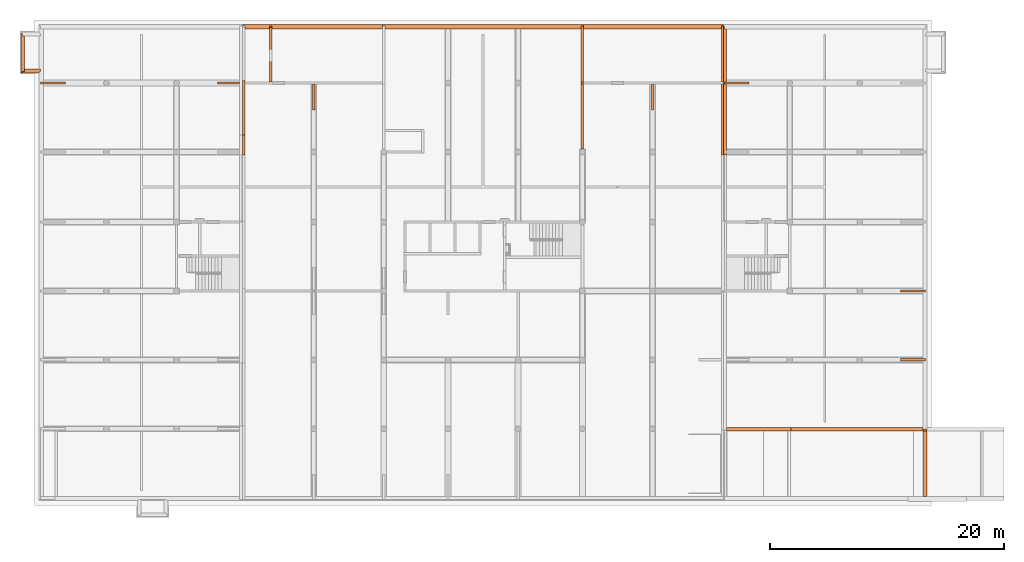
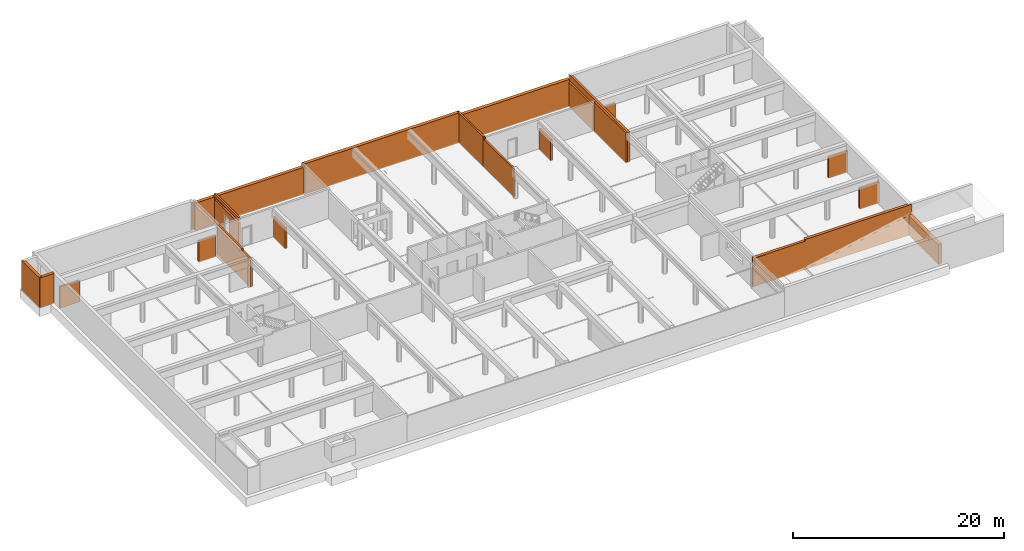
# One storey, part 24 of 25: 21 proxies, 1 opening.
"""IFC2X3 building model written with IfcOpenShell, lengths in millimetres."""

from ifc_helpers import new_model, entity, si_unit, converted_unit, derived_unit, money_unit, direction, frame, origin_with_axes, origin_2d_with_axis, place, context, subcontext, project, spatial, rectangle, extrude, faceted_brep, material, material_list, type_object, element, save


model = new_model("IFC2X3")

# Units and contexts
model_context = context("Model", 3, precision=0.01, world=origin_with_axes(), true_north=direction((0.34421633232, 0.938890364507)))
body_context = subcontext(model_context, "Body", "Model", "MODEL_VIEW")
ifc_project = project(units=[si_unit("LENGTHUNIT", "METRE", prefix="MILLI"), si_unit("AREAUNIT", "SQUARE_METRE"), si_unit("VOLUMEUNIT", "CUBIC_METRE"), converted_unit("PLANEANGLEUNIT", "DEGREE", entity("IfcPlaneAngleMeasure", 0.0174532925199), si_unit("PLANEANGLEUNIT", "RADIAN"), dimensions=[0, 0, 0, 0, 0, 0, 0]), si_unit("SOLIDANGLEUNIT", "STERADIAN"), money_unit("USD"), converted_unit("TIMEUNIT", "Year", entity("IfcTimeMeasure", 31556926.0), si_unit("TIMEUNIT", "SECOND"), dimensions=[0, 0, 1, 0, 0, 0, 0]), si_unit("MASSUNIT", "GRAM", prefix="KILO"), si_unit("THERMODYNAMICTEMPERATUREUNIT", "DEGREE_CELSIUS"), si_unit("LUMINOUSINTENSITYUNIT", "LUMEN"), si_unit("ENERGYUNIT", "JOULE", prefix="MEGA"), derived_unit("THERMALCONDUCTANCEUNIT", [(si_unit("POWERUNIT", "WATT"), 1), (si_unit("LENGTHUNIT", "METRE"), -1), (si_unit("THERMODYNAMICTEMPERATUREUNIT", "KELVIN"), -1)]), derived_unit("SPECIFICHEATCAPACITYUNIT", [(si_unit("ENERGYUNIT", "JOULE"), 1), (si_unit("MASSUNIT", "GRAM", prefix="KILO"), -1), (si_unit("THERMODYNAMICTEMPERATUREUNIT", "KELVIN"), -1)]), derived_unit("MASSDENSITYUNIT", [(si_unit("MASSUNIT", "GRAM", prefix="KILO"), 1), (si_unit("VOLUMEUNIT", "CUBIC_METRE"), -1)])], contexts=[model_context])

# Site, building, storey
site_placement = place(None, origin_with_axes())
site = spatial("IfcSite", under=ifc_project, at=site_placement, Name="USTRONIE MORSKIE", CompositionType="ELEMENT")
building_placement = place(site_placement, origin_with_axes())
building = spatial("IfcBuilding", under=site, at=building_placement, Name="Budynek", CompositionType="ELEMENT")
storey_placement = place(building_placement, frame((0.0, 0.0, -3600.0), z_axis=(0.0, 0.0, 1.0), x_axis=(1.0, 0.0, 0.0)))
storey = spatial("IfcBuildingStorey", under=building, at=storey_placement, Name="GARAZ", CompositionType="ELEMENT", Elevation=-3600.0)

# Proxies
ifc_material_1 = material(Name="Membrana przeciwwilgociowa")
ifc_material_2 = material(Name="Płyty styropianowe twarde HIGH-PRIORITY")
ifc_material_3 = material(Name="Beton konstrukcyjny 01")
ifc_material_list_1 = material_list([ifc_material_1, ifc_material_2, ifc_material_3])
building_element_proxy_type_1 = type_object("IfcBuildingElementProxyType", Name="20+10 GARAŻ 310", PredefinedType="NOTDEFINED")
proxy_1_placement = place(storey_placement, frame((350067.920919, 745791.199036, -800.0), z_axis=(0.0, 0.0, 1.0), x_axis=(-1.0, 0.0, 0.0)))
element("IfcBuildingElementProxy", 1, at=proxy_1_placement, inside=storey, type_object=building_element_proxy_type_1, material=ifc_material_list_1, Name="Œciana-006", context=body_context, shape_type="Brep", body=[
    faceted_brep([(260.0, 210.0, 800.0), (260.0, 200.0, 800.0), (260.0, 200.0, 4170.0), (260.0, 210.0, 4170.0), (1800.0, 200.0, 800.0), (1800.0, 210.0, 800.0), (1800.0, 200.0, 4170.0), (1800.0, 210.0, 4170.0)], [[[0, 1, 2, 3]], [[4, 1, 0, 5]], [[1, 4, 6, 2]], [[6, 7, 3, 2]], [[5, 0, 3, 7]], [[4, 5, 7, 6]]]),
    faceted_brep([(250.0, 200.0, 700.0), (250.0, 100.0, 700.0), (250.0, 100.0, 4170.0), (250.0, 200.0, 4170.0), (1700.0, 100.0, 700.0), (1700.0, 200.0, 700.0), (1700.0, 100.0, 4170.0), (1700.0, 200.0, 4170.0)], [[[0, 1, 2, 3]], [[4, 1, 0, 5]], [[1, 4, 6, 2]], [[6, 7, 3, 2]], [[5, 0, 3, 7]], [[4, 5, 7, 6]]]),
    faceted_brep([(150.0, 100.0, 700.0), (150.0, -100.0, 700.0), (150.0, -100.0, 4170.0), (150.0, 100.0, 4170.0), (1500.0, -100.0, 700.0), (1500.0, 100.0, 700.0), (1500.0, -100.0, 4170.0), (1500.0, 100.0, 4170.0)], [[[0, 1, 2, 3]], [[4, 1, 0, 5]], [[1, 4, 6, 2]], [[6, 7, 3, 2]], [[5, 0, 3, 7]], [[4, 5, 7, 6]]]),
])
ifc_material_list_2 = material_list([ifc_material_3, ifc_material_2, ifc_material_1])
proxy_2_placement = place(storey_placement, frame((348467.920919, 748851.199036, -800.0), z_axis=(0.0, 0.0, 1.0), x_axis=(0.0, -1.0, 0.0)))
element("IfcBuildingElementProxy", 2, at=proxy_2_placement, inside=storey, type_object=building_element_proxy_type_1, material=ifc_material_list_2, Name="Œciana-006", context=body_context, shape_type="Brep", body=[
    faceted_brep([(3160.0, 100.0, 700.0), (100.0, 100.0, 700.0), (100.0, 100.0, 4170.0), (3160.0, 100.0, 4170.0), (100.0, -100.0, 700.0), (3160.0, -100.0, 700.0), (100.0, -100.0, 4170.0), (3160.0, -100.0, 4170.0)], [[[0, 1, 2, 3]], [[4, 1, 0, 5]], [[1, 4, 6, 2]], [[7, 3, 2, 6]], [[5, 0, 3, 7]], [[4, 5, 7, 6]]]),
    faceted_brep([(3260.0, -100.0, 700.0), (-100.0, -100.0, 700.0), (-100.0, -100.0, 4170.0), (3260.0, -100.0, 4170.0), (-100.0, -200.0, 700.0), (3260.0, -200.0, 700.0), (-100.0, -200.0, 4170.0), (3260.0, -200.0, 4170.0)], [[[0, 1, 2, 3]], [[4, 1, 0, 5]], [[1, 4, 6, 2]], [[7, 3, 2, 6]], [[5, 0, 3, 7]], [[4, 5, 7, 6]]]),
    faceted_brep([(3270.0, -200.0, 800.0), (-200.0, -200.0, 800.0), (-200.0, -200.0, 4170.0), (3270.0, -200.0, 4170.0), (-200.0, -210.0, 800.0), (3270.0, -210.0, 800.0), (-200.0, -210.0, 4170.0), (3270.0, -210.0, 4170.0)], [[[0, 1, 2, 3]], [[4, 1, 0, 5]], [[1, 4, 6, 2]], [[7, 3, 2, 6]], [[5, 0, 3, 7]], [[4, 5, 7, 6]]]),
])
proxy_3_placement = place(storey_placement, frame((425567.920919, 715101.199036, -880.0), z_axis=(0.0, 0.0, 1.0), x_axis=(-1.0, 0.0, 0.0)))
element("IfcBuildingElementProxy", 3, at=proxy_3_placement, inside=storey, type_object=building_element_proxy_type_1, material=ifc_material_list_1, Name="Œciana-006", context=body_context, shape_type="Brep", body=[
    faceted_brep([(848.301108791, 199.999999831, 2944.39860763), (100.000005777, 199.999999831, 3056.64377308), (100.000005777, 200.0, 880.0), (11170.2941469, 199.999999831, 880.0), (100.000005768, 210.0, 3056.64377308), (848.301108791, 210.0, 2944.39860763), (100.000005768, 210.0, 880.0), (11170.2941469, 209.999998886, 880.0)], [[[0, 1, 2, 3]], [[4, 1, 0, 5]], [[1, 4, 6, 2]], [[6, 7, 3, 2]], [[5, 0, 3, 7]], [[4, 5, 7, 6]]]),
    faceted_brep([(-249.999987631, 210.000004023, 3412.49999814), (-249.999987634, 200.0, 3412.49999815), (-250.0, 200.0, 4250.0), (-250.0, 210.000004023, 4250.0), (900.0, 200.0, 3240.0), (900.0, 210.0, 3240.0), (11666.6666667, 200.0, 1086.66666667), (13733.3333333, 200.0, 880.0), (17150.0, 200.0, 880.0), (17150.0, 200.0, 3230.0), (17150.0, 200.0, 4250.0), (17100.0, 200.0, 4250.0), (17100.0, 200.0, 3230.0), (16900.0, 200.0, 3230.0), (16850.0, 200.0, 3230.0), (16850.0, 200.0, 4000.0), (11400.0, 200.0, 4000.0), (11400.0, 200.0, 4250.0), (11400.0, 210.0, 4250.0), (11400.0, 210.000004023, 4000.0), (16850.0, 210.0, 4000.0), (16850.0, 210.0, 3230.0), (17100.0, 210.0, 3230.0), (17100.0, 210.0, 4250.0), (17150.0, 210.0, 4250.0), (17150.0, 210.0, 3230.0), (17150.0, 209.999998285, 880.0), (13733.3333333, 209.999998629, 880.0), (11666.6666667, 210.0, 1086.66666667)], [[[0, 1, 2, 3]], [[4, 1, 0, 5]], [[1, 4, 6, 7, 8, 9, 10, 11, 12, 13, 14, 15, 16, 17, 2]], [[18, 3, 2, 17]], [[5, 0, 3, 18, 19, 20, 21, 22, 23, 24, 25, 26, 27, 28]], [[4, 5, 28, 6]], [[7, 6, 28, 27]], [[26, 8, 7, 27]], [[8, 26, 25, 9]], [[9, 25, 24, 10]], [[24, 23, 11, 10]], [[22, 12, 11, 23]], [[13, 12, 22, 21, 14]], [[20, 15, 14, 21]], [[16, 15, 20, 19]], [[16, 19, 18, 17]]]),
    faceted_brep([(17100.0, 100.0, 4250.0), (17100.0, 100.0, 3230.0), (16900.0, 100.0, 3230.0), (16899.9915408, 100.000000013, 4050.0), (11600.0, 100.0, 4050.0), (11400.0, 100.0, 4050.0), (11400.0, 100.0, 4250.0), (-150.0, 100.0, 4250.0), (-149.999997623, 100.0, 3120.0), (100.000005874, 100.0, 3120.0), (100.000005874, 100.0, 780.0), (17000.0, 100.0, 780.0), (17150.0, 100.0, 780.0), (17150.0, 100.0, 3230.0), (17150.0, 100.0, 4250.0), (17100.0, 200.0, 4250.0), (17100.0, 200.0, 3230.0), (16900.0, 200.0, 3230.0), (16899.9916892, 200.000000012, 4050.0), (11600.0, 200.0, 4050.0), (11400.0, 200.0, 4050.0), (11400.0, 200.0, 4250.0), (-150.0, 200.0, 4250.0), (-149.999997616, 200.0, 3120.0), (100.000005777, 200.0, 3120.0), (100.000005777, 200.0, 780.0), (17000.0, 200.0, 780.0), (17150.0, 200.0, 780.0), (17150.0, 200.0, 3230.0), (17150.0, 200.0, 4250.0)], [[[0, 1, 2, 3, 4, 5, 6, 7, 8, 9, 10, 11, 12, 13, 14]], [[1, 0, 15, 16]], [[2, 1, 16, 17]], [[3, 2, 17, 18]], [[4, 3, 18, 19]], [[19, 20, 5, 4]], [[21, 6, 5, 20]], [[22, 7, 6, 21]], [[8, 7, 22, 23]], [[8, 23, 24, 9]], [[10, 9, 24, 25]], [[10, 25, 26, 11]], [[26, 27, 12, 11]], [[27, 28, 13, 12]], [[28, 29, 14, 13]], [[15, 0, 14, 29]], [[22, 21, 20, 19, 18, 17, 16, 15, 29, 28, 27, 26, 25, 24, 23]]]),
    faceted_brep([(16899.991244, -99.9999999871, 4050.0), (11400.0, -100.0, 4050.0), (11400.0, -100.0, 4250.0), (100.0, -100.0, 4250.0), (100.000011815, -100.0, 3120.0), (100.000007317, -100.0, 780.0), (16900.0, -100.0, 780.0), (16899.9915408, 100.000000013, 4050.0), (11400.0, 100.0, 4050.0), (11400.0, 100.0, 4250.0), (100.0, 100.0, 4250.0), (100.000011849, 0.0, 3120.0), (100.000004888, 100.0, 780.0), (100.000007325, 0.0, 780.0), (16900.0, 100.0, 780.0)], [[[0, 1, 2, 3, 4, 5, 6]], [[1, 0, 7, 8]], [[9, 2, 1, 8]], [[2, 9, 10, 3]], [[11, 4, 3, 10, 12, 13]], [[4, 11, 13, 5]], [[6, 5, 13, 12, 14]], [[7, 0, 6, 14]], [[8, 7, 14, 12, 10, 9]]]),
])
building_element_proxy_type_2 = type_object("IfcBuildingElementProxyType", Name="Beton konstrukcyjny 01 200", PredefinedType="NOTDEFINED")
proxy_4_placement = place(storey_placement, frame((396318.678798, 738801.199036, -100.0), z_axis=(0.0, 0.0, 1.0), x_axis=(-0.000128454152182, 0.99999999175, 0.0)))
element("IfcBuildingElementProxy", 4, at=proxy_4_placement, inside=storey, type_object=building_element_proxy_type_2, material=ifc_material_3, Name="SW-01", context=body_context, shape_type="Brep", body=[
    faceted_brep([(249.999997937, -0.0321135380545, 2470.00030619), (246.196359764, -43.4436697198, 2470.00030619), (234.912169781, -85.5352119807, 2470.00030619), (228.164866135, -100.0, 2470.00030619), (249.987156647, -100.0, 2470.00030619), (246.196359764, -43.4436697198, 0.0), (249.999997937, -0.0321135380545, 0.0), (234.912169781, -85.5352119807, 0.0), (228.164866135, -100.0, 0.0), (6000.0000495, -100.0, 0.0), (6000.0000495, -100.0, 3470.0), (5800.01478713, -100.0, 3470.0), (5800.01478713, -100.0, 3270.0), (249.987156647, -100.0, 3270.0), (250.012847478, 100.0, 2470.00030619), (250.012847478, 100.0, 3270.0), (246.207512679, 43.3804183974, 2470.00030619), (246.207512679, 43.3804183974, 0.0), (234.934136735, 85.4748582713, 0.0), (228.163223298, 100.0, 0.0), (6000.0000495, 100.0, 0.0), (6000.0000495, 100.0, 3470.0), (5800.0409455, 100.0, 3470.0), (5800.0409455, 100.0, 3270.0), (234.934136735, 85.4748582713, 2470.00030619), (228.163223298, 100.0, 2470.00030619)], [[[0, 1, 2, 3, 4]], [[5, 1, 0, 6]], [[7, 2, 1, 5]], [[7, 8, 3, 2]], [[4, 3, 8, 9, 10, 11, 12, 13]], [[14, 0, 4, 13, 15]], [[6, 0, 16, 17]], [[17, 18, 19, 20, 9, 8, 7, 5, 6]], [[20, 21, 10, 9]], [[11, 10, 21, 22]], [[11, 22, 23, 12]], [[12, 23, 15, 13]], [[24, 16, 0, 14, 25]], [[20, 19, 25, 14, 15, 23, 22, 21]], [[17, 16, 24, 18]], [[18, 24, 25, 19]]]),
])
proxy_5_placement = place(storey_placement, frame((408317.920919, 749451.199036, -100.0), z_axis=(0.0, 0.0, 1.0), x_axis=(0.0, -1.0, 0.0)))
element("IfcBuildingElementProxy", 5, at=proxy_5_placement, inside=storey, type_object=building_element_proxy_type_2, material=ifc_material_3, Name="SW-01", context=body_context, shape_type="Brep", body=[
    faceted_brep([(-150.0, 100.0, 0.0), (4650.0, 100.0, 0.0), (4650.0, -100.0, 0.0), (-150.0, -100.0, 0.0), (-150.0, 100.0, 2820.0), (4650.0, 100.0, 2820.0), (4650.0, -100.0, 2820.0), (-150.0, -100.0, 2820.0)], [[[0, 1, 2, 3]], [[4, 5, 1, 0]], [[6, 2, 1, 5]], [[3, 2, 6, 7]], [[7, 4, 0, 3]], [[7, 6, 5, 4]]]),
])
proxy_6_placement = place(storey_placement, frame((396317.908074, 744801.199036, -100.0), z_axis=(0.0, 0.0, 1.0), x_axis=(-0.00012845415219, 0.99999999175, 0.0)))
element("IfcBuildingElementProxy", 6, at=proxy_6_placement, inside=storey, type_object=building_element_proxy_type_2, material=ifc_material_3, Name="SW-01", context=body_context, shape_type="Brep", body=[
    faceted_brep([(4550.01288295, 100.0, 3470.0), (4550.01280623, 99.4026873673, 3470.0), (2224.96011739, 99.9999999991, 3470.0), (0.0, 100.0, 3470.0), (0.0, -100.0, 3470.0), (4799.98719419, -100.0, 3470.0), (4800.01288502, 100.0, 3470.0), (4550.01280623, 99.4026873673, 3270.0), (4550.01288295, 100.0, 3270.0), (2224.96011383, 100.0, 3270.0), (4800.01288502, 100.0, 0.0), (0.0, 100.0, 0.0), (0.0, -100.0, 0.0), (4799.98719419, -100.0, 0.0)], [[[0, 1, 2, 3, 4, 5, 6]], [[7, 1, 0, 8]], [[9, 2, 1, 7]], [[9, 8, 0, 6, 10, 11, 3, 2]], [[4, 3, 11, 12]], [[12, 13, 5, 4]], [[5, 13, 10, 6]], [[7, 8, 9]], [[11, 10, 13, 12]]]),
])
proxy_7_placement = place(storey_placement, frame((425567.920919, 721001.199036, -100.0), z_axis=(0.0, 0.0, 1.0), x_axis=(-1.0, 0.0, 0.0)))
element("IfcBuildingElementProxy", 7, at=proxy_7_placement, inside=storey, type_object=building_element_proxy_type_2, material=ifc_material_3, Name="SW-01", context=body_context, shape_type="Brep", body=[
    faceted_brep([(-150.0, 100.0, 2470.00000745), (-150.0, -100.0, 2470.00000745), (2000.0, -100.0, 2470.00000745), (2000.0, 100.0, 2470.00000745), (-150.0, 100.0, 0.0), (-150.0, -100.0, 0.0), (2000.0, -100.0, 0.0), (2000.0, 100.0, 0.0)], [[[0, 1, 2, 3]], [[4, 5, 1, 0]], [[1, 5, 6, 2]], [[7, 3, 2, 6]], [[4, 0, 3, 7]], [[5, 4, 7, 6]]]),
])
proxy_8_placement = place(storey_placement, frame((367317.920919, 744701.199036, -100.0), z_axis=(0.0, 0.0, 1.0), x_axis=(0.0, -1.0, 0.0)))
element("IfcBuildingElementProxy", 8, at=proxy_8_placement, inside=storey, type_object=building_element_proxy_type_2, material=ifc_material_3, Name="SW-01", context=body_context, shape_type="Brep", body=[
    faceted_brep([(-200.0, 100.0, 3470.0), (-200.0, -100.0, 3470.0), (4439.98408229, -100.0, 3470.0), (4439.98408229, 100.0, 3470.0), (-200.0, -100.0, 0.0), (-200.0, 100.0, 0.0), (6150.0, -100.0, 0.0), (6150.0, -100.0, 3270.0), (4439.98408229, -100.0, 3270.0), (4439.98408229, 100.0, 3270.0), (6150.0, 100.0, 3270.0), (6150.0, 100.0, 0.0)], [[[0, 1, 2, 3]], [[4, 1, 0, 5]], [[6, 7, 8, 2, 1, 4]], [[2, 8, 9, 3]], [[0, 3, 9, 10, 11, 5]], [[5, 11, 6, 4]], [[6, 11, 10, 7]], [[8, 7, 10, 9]]]),
])
proxy_9_placement = place(storey_placement, frame((425567.920919, 726901.199036, -100.0), z_axis=(0.0, 0.0, 1.0), x_axis=(-1.0, 0.0, 0.0)))
element("IfcBuildingElementProxy", 9, at=proxy_9_placement, inside=storey, type_object=building_element_proxy_type_2, material=ifc_material_3, Name="SW-01", context=body_context, shape_type="Brep", body=[
    faceted_brep([(-150.0, 100.0, 2470.00000745), (-150.0, -100.0, 2470.00000745), (2000.0, -100.0, 2470.00000745), (2000.0, 100.0, 2470.00000745), (-150.0, 100.0, 0.0), (-150.0, -100.0, 0.0), (2000.0, -100.0, 0.0), (2000.0, 100.0, 0.0)], [[[0, 1, 2, 3]], [[4, 5, 1, 0]], [[1, 5, 6, 2]], [[7, 3, 2, 6]], [[4, 0, 3, 7]], [[5, 4, 7, 6]]]),
])
proxy_10_placement = place(storey_placement, frame((350067.920919, 744701.199036, -100.0), z_axis=(0.0, 0.0, 1.0), x_axis=(1.0, 0.0, 0.0)))
element("IfcBuildingElementProxy", 10, at=proxy_10_placement, inside=storey, type_object=building_element_proxy_type_2, material=ifc_material_3, Name="SW-01", context=body_context, shape_type="Brep", body=[
    faceted_brep([(-150.0, 100.0, 0.0), (2000.0, 100.0, 0.0), (2000.0, -100.0, 0.0), (-150.0, -100.0, 0.0), (-150.0, 100.0, 2470.00030619), (2000.0, 100.0, 2470.00030619), (2000.0, -100.0, 2470.00030619), (-150.0, -100.0, 2470.00030619)], [[[0, 1, 2, 3]], [[4, 5, 1, 0]], [[2, 1, 5, 6]], [[3, 2, 6, 7]], [[4, 0, 3, 7]], [[7, 6, 5, 4]]]),
])
proxy_11_placement = place(storey_placement, frame((373317.920919, 744701.199036, -100.0), z_axis=(0.0, 0.0, 1.0), x_axis=(0.0, -1.0, 0.0)))
element("IfcBuildingElementProxy", 11, at=proxy_11_placement, inside=storey, type_object=building_element_proxy_type_2, material=ifc_material_3, Name="SW-01", context=body_context, shape_type="Brep", body=[
    faceted_brep([(100.0, -100.0, 0.0), (100.0, -100.0, 2470.00030619), (100.0, 100.0, 2470.00030619), (100.0, 100.0, 0.0), (2300.99283942, -100.0, 0.0), (2300.99283942, -100.0, 2470.00030619), (2300.99283942, 100.0, 2470.00030619), (2300.99283942, 100.0, 0.0)], [[[0, 1, 2, 3]], [[4, 5, 1, 0]], [[5, 6, 2, 1]], [[3, 2, 6, 7]], [[0, 3, 7, 4]], [[7, 6, 5, 4]]]),
])
proxy_12_placement = place(storey_placement, frame((402317.920919, 744701.199036, -100.0), z_axis=(0.0, 0.0, 1.0), x_axis=(0.0, -1.0, 0.0)))
element("IfcBuildingElementProxy", 12, at=proxy_12_placement, inside=storey, type_object=building_element_proxy_type_2, material=ifc_material_3, Name="SW-01", context=body_context, shape_type="Brep", body=[
    faceted_brep([(100.0, 100.0, 2470.0), (100.0, -100.0, 2470.0), (2295.99283942, -100.0, 2470.0), (2295.99283942, 100.0, 2470.0), (100.0, 100.0, 0.0), (100.0, -100.0, 0.0), (2295.99283942, -100.0, 0.0), (2295.99283942, 100.0, 0.0)], [[[0, 1, 2, 3]], [[4, 5, 1, 0]], [[1, 5, 6, 2]], [[7, 3, 2, 6]], [[4, 0, 3, 7]], [[5, 4, 7, 6]]]),
])
proxy_13_placement = place(storey_placement, frame((408317.920919, 744701.199036, -100.0), z_axis=(0.0, 0.0, 1.0), x_axis=(0.0, -1.0, 0.0)))
element("IfcBuildingElementProxy", 13, at=proxy_13_placement, inside=storey, type_object=building_element_proxy_type_2, material=ifc_material_3, Name="SW-01", context=body_context, shape_type="Brep", body=[
    faceted_brep([(6150.0, 100.0, 0.0), (100.0, 100.0, 0.0), (100.0, 100.0, 2820.0), (100.0, 100.0, 3470.0), (6150.0, 100.0, 3470.0), (6150.0, -100.0, 0.0), (100.000000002, -100.0, 0.0), (100.0, -100.0, 3470.0), (6150.0, -100.0, 3470.0)], [[[0, 1, 2, 3, 4]], [[0, 5, 6, 1]], [[1, 6, 7, 3, 2]], [[8, 4, 3, 7]], [[0, 4, 8, 5]], [[5, 8, 7, 6]]]),
])
proxy_14_placement = place(storey_placement, frame((408567.920919, 744701.199036, -100.0), z_axis=(0.0, 0.0, 1.0), x_axis=(1.0, 0.0, 0.0)))
element("IfcBuildingElementProxy", 14, at=proxy_14_placement, inside=storey, type_object=building_element_proxy_type_2, material=ifc_material_3, Name="SW-01", context=body_context, shape_type="Brep", body=[
    faceted_brep([(-100.0, 100.0, 0.0), (2000.0, 100.0, 0.0), (2000.0, -100.0, 0.0), (-100.0, -100.0, 0.0), (-100.0, 100.0, 2470.0), (2000.0, 100.0, 2470.0), (2000.0, -100.0, 2470.0), (-100.0, -100.0, 2470.0)], [[[0, 1, 2, 3]], [[4, 5, 1, 0]], [[2, 1, 5, 6]], [[3, 2, 6, 7]], [[4, 0, 3, 7]], [[7, 6, 5, 4]]]),
])
proxy_15_placement = place(storey_placement, frame((367067.920919, 744701.199036, -100.0), z_axis=(0.0, 0.0, 1.0), x_axis=(-1.0, 0.0, 0.0)))
element("IfcBuildingElementProxy", 15, at=proxy_15_placement, inside=storey, type_object=building_element_proxy_type_2, material=ifc_material_3, Name="SW-01", context=body_context, shape_type="Brep", body=[
    faceted_brep([(100.0, -100.0, 2470.00030619), (2000.0, -100.0, 2470.00030619), (2000.0, 100.0, 2470.00030619), (100.0, 100.0, 2470.00030619), (100.0, -100.0, 0.0), (2000.0, -100.0, 0.0), (2000.0, 100.0, 0.0), (100.0, 100.0, 0.0)], [[[0, 1, 2, 3]], [[4, 5, 1, 0]], [[2, 1, 5, 6]], [[3, 2, 6, 7]], [[4, 0, 3, 7]], [[7, 6, 5, 4]]]),
])

# Proxy, opening
proxy_16_placement = place(storey_placement, frame((369627.920919, 744701.199036, -100.0), z_axis=(0.0, 0.0, 1.0), x_axis=(0.0, 1.0, 0.0)))
proxy_16 = element("IfcBuildingElementProxy", 16, at=proxy_16_placement, inside=storey, type_object=building_element_proxy_type_2, material=ifc_material_3, Name="SW-01", context=body_context, shape_type="Brep", body=[
    faceted_brep([(4650.0, -100.0, 3120.0), (4650.0, -100.0, 2820.0), (99.9999909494, -100.0, 2820.0), (100.0, -100.0, 0.0), (4900.00000354, -100.0, 0.0), (4900.0, -100.0, 3120.0), (4750.0, -100.0, 3120.0), (4750.0, -100.0, 3470.0), (100.0, -100.0, 3470.0), (99.9999909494, -100.0, 3120.0), (4650.0, 100.0, 2820.0), (4650.0, 100.0, 3120.0), (99.9999909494, 100.0, 2820.0), (100.0, 100.0, 0.0), (4900.00000361, 100.0, 0.0), (4900.0, 100.0, 3120.0), (4750.0, 100.0, 3120.0), (4750.0, 100.0, 3470.0), (100.0, 100.0, 3470.0), (99.9999909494, 100.0, 3120.0)], [[[0, 1, 2, 3, 4, 5, 6, 7, 8, 9]], [[10, 1, 0, 11]], [[12, 2, 1, 10]], [[3, 2, 12, 13]], [[3, 13, 14, 4]], [[4, 14, 15, 5]], [[16, 6, 5, 15]], [[7, 6, 16, 17]], [[17, 18, 8, 7]], [[18, 19, 9, 8]], [[11, 0, 9, 19]], [[10, 11, 19, 18, 17, 16, 15, 14, 13, 12]]]),
])
opening_placement = place(proxy_16_placement, frame((2375.0, 0.0, 100.0), z_axis=(0.0, 0.0, 1.0), x_axis=(1.0, 0.0, 0.0)))
element("IfcOpeningElement", 17, at=opening_placement, cuts=proxy_16, Name="Dw02", context=body_context, shape_type="SweptSolid", body=[
    extrude(rectangle(XDim=1020.0, YDim=2120.0, at=origin_2d_with_axis()), frame((0.0, 200.0, 1060.0), z_axis=(0.0, -1.0, 0.0), x_axis=(1.0, 0.0, 0.0)), (0.0, 0.0, 1.0), 600.0),
    extrude(rectangle(XDim=1094.0, YDim=2227.0, at=origin_2d_with_axis()), frame((0.0, 100.0, 1113.5), z_axis=(0.0, -1.0, 0.0), x_axis=(1.0, 0.0, 0.0)), (0.0, 0.0, -1.0), 200.0),
    extrude(rectangle(XDim=1094.0, YDim=2227.0, at=origin_2d_with_axis()), frame((0.0, -100.0, 1113.5), z_axis=(0.0, 1.0, 0.0), x_axis=(1.0, 0.0, 0.0)), (0.0, 0.0, -1.0), 200.0),
])

# Proxies
building_element_proxy_type_3 = type_object("IfcBuildingElementProxyType", Name="25+10 GARAŻ 360", PredefinedType="NOTDEFINED")
proxy_17_placement = place(storey_placement, frame((396417.310763, 749451.199036, -800.0), z_axis=(0.0, 0.0, 1.0), x_axis=(1.0, 0.0, 0.0)))
element("IfcBuildingElementProxy", 18, at=proxy_17_placement, inside=storey, type_object=building_element_proxy_type_3, material=ifc_material_list_1, Name="SZ-02", context=body_context, shape_type="Brep", body=[
    faceted_brep([(12000.6101564, 250.000000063, 800.0), (12000.6101564, 259.999998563, 800.0), (12000.6101564, 260.0, 3520.0), (12000.6101564, 250.000001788, 3520.0), (0.0, 260.0, 800.0), (0.0, 250.0, 800.0), (0.0, 260.0, 3819.9999994), (11900.6101564, 260.0, 3820.0), (11900.6101564, 260.0, 3520.0), (11900.6101564, 250.000001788, 3520.0), (11900.6101564, 250.000001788, 3820.0), (0.0, 250.0, 3819.9999994)], [[[0, 1, 2, 3]], [[4, 1, 0, 5]], [[1, 4, 6, 7, 8, 2]], [[9, 3, 2, 8]], [[5, 0, 3, 9, 10, 11]], [[4, 5, 11, 6]], [[11, 10, 7, 6]], [[9, 8, 7, 10]]]),
    faceted_brep([(11900.6101564, 150.00000447, 700.0), (11900.6101564, 250.0, 700.0), (12000.6101564, 250.0, 700.0), (12000.6101564, 150.00000447, 700.0), (0.0, 250.0, 700.0), (0.0, 150.0, 700.0), (0.0, 250.0, 3819.9999994), (11900.6101564, 250.000001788, 3820.0), (11900.6101564, 250.000001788, 3520.0), (12000.6101564, 250.000001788, 3520.0), (12000.6101564, 149.999998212, 3520.0), (11900.6101564, 149.999998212, 3520.0), (11900.6101564, 149.999998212, 3820.0), (0.0, 150.0, 3819.9999994)], [[[0, 1, 2, 3]], [[4, 1, 0, 5]], [[1, 4, 6, 7, 8, 9, 2]], [[2, 9, 10, 3]], [[5, 0, 3, 10, 11, 12, 13]], [[4, 5, 13, 6]], [[13, 12, 7, 6]], [[11, 8, 7, 12]], [[11, 10, 9, 8]]]),
    faceted_brep([(11800.6101564, -100.0, 700.0), (11800.6101564, 149.999998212, 700.0), (11800.6101564, 149.999998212, 3520.0), (11800.6101564, -100.0, 3520.0), (0.0, 150.0, 700.0), (0.0, -100.0, 700.0), (0.0, 150.0, 3819.9999994), (11900.6101564, 149.999998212, 3820.0), (11900.6101564, 149.999998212, 3520.0), (11900.6101564, -100.0, 3520.0), (11900.6101564, -100.0, 3820.0), (0.0, -100.0, 3819.9999994)], [[[0, 1, 2, 3]], [[4, 1, 0, 5]], [[1, 4, 6, 7, 8, 2]], [[3, 2, 8, 9]], [[5, 0, 3, 9, 10, 11]], [[4, 5, 11, 6]], [[6, 11, 10, 7]], [[10, 9, 8, 7]]]),
])
proxy_18_placement = place(storey_placement, frame((379217.920919, 749451.199036, -800.0), z_axis=(0.0, 0.0, 1.0), x_axis=(1.0, 0.0, 0.0)))
element("IfcBuildingElementProxy", 19, at=proxy_18_placement, inside=storey, type_object=building_element_proxy_type_3, material=ifc_material_list_1, Name="SZ-02", context=body_context, shape_type="Brep", body=[
    faceted_brep([(17199.3898436, 250.0, 800.0), (17199.3898436, 260.0, 800.0), (17199.3898436, 260.0, 4170.0), (17199.3898436, 250.0, 4170.0), (0.0, 260.0, 800.0), (0.0, 250.0, 800.0), (0.0, 260.0, 4170.0), (0.0, 250.0, 4170.0)], [[[0, 1, 2, 3]], [[4, 1, 0, 5]], [[1, 4, 6, 2]], [[7, 3, 2, 6]], [[5, 0, 3, 7]], [[4, 5, 7, 6]]]),
    faceted_brep([(17199.3898436, 150.0, 700.0), (17199.3898436, 250.0, 700.0), (17199.3898436, 250.0, 4170.0), (17199.3898436, 150.0, 4170.0), (0.0, 250.0, 700.0), (0.0, 150.0, 700.0), (0.0, 250.0, 4170.0), (0.0, 150.0, 4170.0)], [[[0, 1, 2, 3]], [[4, 1, 0, 5]], [[1, 4, 6, 2]], [[7, 3, 2, 6]], [[5, 0, 3, 7]], [[4, 5, 7, 6]]]),
    faceted_brep([(200.0, -100.0, 4170.0), (200.0, -100.0, 700.0), (16999.4026874, -100.0, 700.0), (16999.4026874, -100.0, 4170.0), (200.0, 150.0, 4170.0), (200.0, 150.0, 700.0), (16999.3705738, 150.0, 700.0), (16999.3705738, 150.0, 4170.0)], [[[0, 1, 2, 3]], [[4, 5, 1, 0]], [[5, 6, 2, 1]], [[3, 2, 6, 7]], [[4, 0, 3, 7]], [[7, 6, 5, 4]]]),
    faceted_brep([(17199.3898436, -3.54020812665e-07, 700.0), (17199.3898436, 150.0, 700.0), (17199.3898436, 150.0, 4170.0), (17199.3898436, -3.76189746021e-07, 4170.0), (17199.3705755, 150.0, 700.0), (17199.3705755, 150.0, 4170.0)], [[[0, 1, 2, 3]], [[4, 1, 0]], [[1, 4, 5, 2]], [[2, 5, 3]], [[4, 0, 3, 5]]]),
])
proxy_19_placement = place(storey_placement, frame((425567.920919, 715101.199036, -800.0), z_axis=(0.0, 0.0, 1.0), x_axis=(0.0, -1.0, 0.0)))
element("IfcBuildingElementProxy", 20, at=proxy_19_placement, inside=storey, type_object=building_element_proxy_type_3, material=ifc_material_list_1, Name="SZ-02", context=body_context, shape_type="Brep", body=[
    faceted_brep([(199.999999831, 250.0, 3040.0), (199.999999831, 260.0, 3040.0), (0.0, 260.0, 3040.0), (0.0, 250.0, 3040.0), (199.999999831, 260.0, 3030.64377395), (199.999999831, 250.0, 3029.14377395), (5800.00000039, 260.0, 3030.64377395), (5800.0, 260.0, 800.0), (0.0, 260.0, 800.0), (0.0, 250.0, 800.0), (5800.0, 250.0, 800.0), (5800.00000039, 250.0, 3029.14377395)], [[[0, 1, 2, 3]], [[4, 1, 0, 5]], [[4, 6, 7, 8, 2, 1]], [[2, 8, 9, 3]], [[5, 0, 3, 9, 10, 11]], [[6, 4, 5, 11]], [[6, 11, 10, 7]], [[10, 9, 8, 7]]]),
    faceted_brep([(199.999999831, 150.0, 3040.0), (199.999999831, 250.0, 3040.0), (0.0, 250.0, 3040.0), (0.0, 150.0, 3040.0), (199.999999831, 250.0, 3029.14377395), (199.999999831, 150.0, 3014.14377395), (5800.00000039, 250.0, 3029.14377395), (5800.0, 250.0, 700.0), (0.0, 250.0, 700.0), (0.0, 150.0, 700.0), (5800.0, 150.0, 700.0), (5800.00000039, 150.0, 3014.14377395)], [[[0, 1, 2, 3]], [[4, 1, 0, 5]], [[4, 6, 7, 8, 2, 1]], [[2, 8, 9, 3]], [[5, 0, 3, 9, 10, 11]], [[6, 4, 5, 11]], [[6, 11, 10, 7]], [[10, 9, 8, 7]]]),
    faceted_brep([(199.999999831, -100.0, 3040.0), (199.999999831, 150.0, 3040.0), (0.0, 150.0, 3040.0), (0.0, -100.0, 3040.0), (199.999999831, 150.0, 3014.14377395), (199.999999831, -100.0, 2976.64377395), (5800.00000039, 150.0, 3014.14377395), (5800.0, 150.0, 700.0), (0.0, 150.0, 700.0), (0.0, -100.0, 700.0), (5800.0, -100.0, 700.0), (5800.00000039, -100.0, 2976.64377395)], [[[0, 1, 2, 3]], [[4, 1, 0, 5]], [[4, 6, 7, 8, 2, 1]], [[2, 8, 9, 3]], [[5, 0, 3, 9, 10, 11]], [[6, 4, 5, 11]], [[6, 11, 10, 7]], [[10, 9, 8, 7]]]),
])
proxy_20_placement = place(storey_placement, frame((367317.920919, 749451.199036, -800.0), z_axis=(0.0, 0.0, 1.0), x_axis=(1.0, 0.0, 0.0)))
element("IfcBuildingElementProxy", 21, at=proxy_20_placement, inside=storey, type_object=building_element_proxy_type_3, material=ifc_material_list_1, Name="SZ-02", context=body_context, shape_type="Brep", body=[
    faceted_brep([(11900.0, 250.0, 800.0), (11900.0, 260.0, 800.0), (11900.0, 260.0, 3820.0), (11900.0, 250.0, 3820.0), (-100.0, 259.999998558, 800.0), (-100.0, 250.0, 800.0), (-100.0, 260.0, 3820.0), (-100.0, 250.0, 3820.0)], [[[0, 1, 2, 3]], [[4, 1, 0, 5]], [[1, 4, 6, 2]], [[2, 6, 7, 3]], [[5, 0, 3, 7]], [[4, 5, 7, 6]]]),
    faceted_brep([(11900.0, 150.0, 700.0), (11900.0, 250.0, 700.0), (11900.0, 250.0, 3820.0), (11900.0, 150.0, 3820.0), (0.0, 250.0, 700.0), (0.0, 150.00000447, 700.0), (-100.0, 250.0, 700.0), (-100.0, 250.0, 3820.0), (-100.0, 150.0, 3820.0), (-100.0, 150.00000447, 700.0)], [[[0, 1, 2, 3]], [[4, 1, 0, 5]], [[1, 4, 6, 7, 2]], [[2, 7, 8, 3]], [[5, 0, 3, 8, 9]], [[4, 5, 9, 6]], [[7, 6, 9, 8]]]),
    faceted_brep([(2210.0, -100.0, 700.0), (2210.0, 150.00000447, 700.0), (2210.0, 150.0, 3820.0), (2210.0, -100.0, 3820.0), (100.0, 150.00000447, 700.0), (100.0, -100.0, 700.0), (100.0, 150.0, 3820.0), (100.0, -100.0, 3820.0)], [[[0, 1, 2, 3]], [[4, 1, 0, 5]], [[1, 4, 6, 2]], [[7, 3, 2, 6]], [[5, 0, 3, 7]], [[4, 5, 7, 6]]]),
    faceted_brep([(11900.0, -100.0, 700.0), (11900.0, 150.0, 700.0), (11900.0, 150.0, 3820.0), (11900.0, -100.0, 3820.0), (2410.0, 150.00000447, 700.0), (2410.0, -100.0, 700.0), (2410.0, 150.0, 3820.0), (2410.0, -100.0, 3820.0)], [[[0, 1, 2, 3]], [[4, 1, 0, 5]], [[1, 4, 6, 2]], [[2, 6, 7, 3]], [[5, 0, 3, 7]], [[4, 5, 7, 6]]]),
])
ifc_material_4 = material(Name="Płyty styropianowe twarde")
ifc_material_list_3 = material_list([ifc_material_4, ifc_material_3])
building_element_proxy_type_4 = type_object("IfcBuildingElementProxyType", Name="20+5 250", PredefinedType="NOTDEFINED")
proxy_21_placement = place(storey_placement, frame((408567.920919, 738551.199036, -100.0), z_axis=(0.0, 0.0, 1.0), x_axis=(0.0, 1.0, 0.0)))
element("IfcBuildingElementProxy", 22, at=proxy_21_placement, inside=storey, type_object=building_element_proxy_type_4, material=ifc_material_list_3, Name="Œciana-006", context=body_context, shape_type="Brep", body=[
    faceted_brep([(0.0, 100.0, 3470.0), (0.0, 100.0, 100.0), (11050.0, 100.0, 100.0), (11050.0, 100.0, 3470.0), (0.0, 150.0, 3470.0), (0.0, 150.0, 100.0), (11050.0, 150.0, 100.0), (11050.0, 150.0, 3470.0)], [[[0, 1, 2, 3]], [[4, 5, 1, 0]], [[5, 6, 2, 1]], [[3, 2, 6, 7]], [[0, 3, 7, 4]], [[7, 6, 5, 4]]]),
    faceted_brep([(350.0, -100.0, 0.0), (6050.0, -100.0, 0.0), (6050.0, -100.0, 2470.0), (6250.0, -100.0, 2470.0), (6250.0, -100.0, 0.0), (10800.0, -100.0, 0.0), (10800.0, -100.0, 3470.0), (0.0, -100.0, 3470.0), (0.0, -100.0, 0.0), (150.0, -100.0, 0.0), (150.0, -100.0, 2470.0), (350.0, -100.0, 2470.0), (350.0, 100.0, 0.0), (6050.0, 100.0, 0.0), (6050.0, 100.0, 2470.0), (6250.0, 100.0, 2470.0), (6250.0, 100.0, 0.0), (10800.0, 100.0, 0.0), (10800.0, 100.0, 3470.0), (0.0, 100.0, 3470.0), (0.0, 100.0, 0.0), (150.0, 100.0, 0.0), (150.0, 100.0, 2470.0), (350.0, 100.0, 2470.0)], [[[0, 1, 2, 3, 4, 5, 6, 7, 8, 9, 10, 11]], [[12, 13, 1, 0]], [[14, 2, 1, 13]], [[15, 3, 2, 14]], [[16, 4, 3, 15]], [[5, 4, 16, 17]], [[17, 18, 6, 5]], [[7, 6, 18, 19]], [[20, 8, 7, 19]], [[20, 21, 9, 8]], [[22, 10, 9, 21]], [[23, 11, 10, 22]], [[12, 0, 11, 23]], [[15, 14, 13, 12, 23, 22, 21, 20, 19, 18, 17, 16]]]),
])

save(model, "model.ifc")
